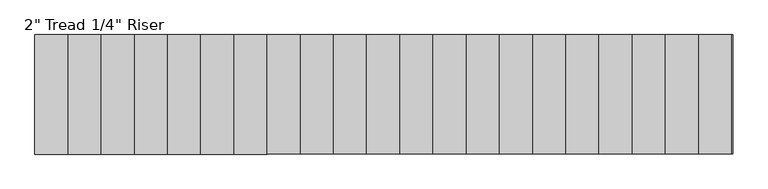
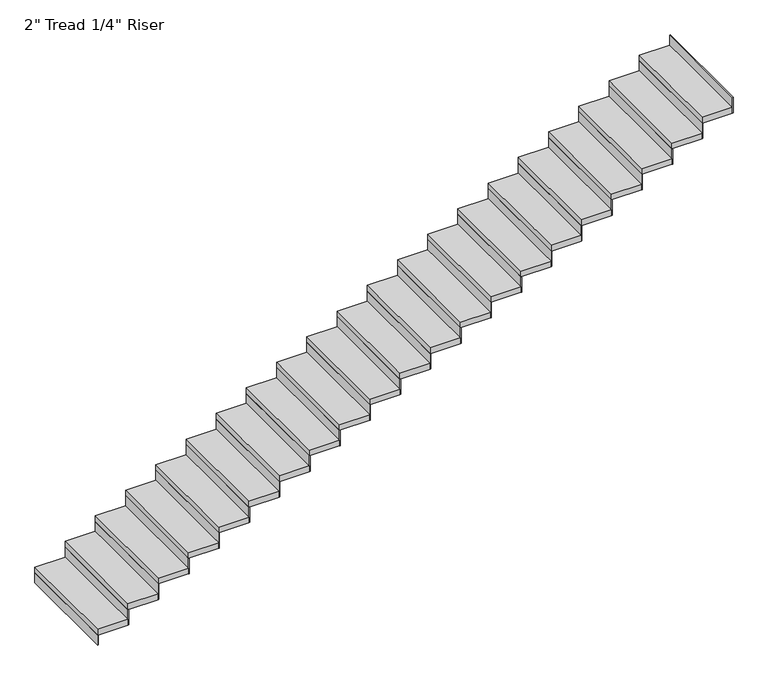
"""IFC4 building model written with IfcOpenShell, lengths in millimetres: stair flight geometry."""

from ifc_helpers import new_model, si_unit, frame, origin, origin_with_axes, place, context, project, spatial, polyline, outline, extrude, source, transform, mapped, element, save


def stair_flight_fd0f363b(model_context):
    return source(origin(), model_context, "Body", "SweptSolid", [
        extrude(outline(polyline([(29973.8286682, 14907.564969), (29967.4786682, 14907.564969), (29967.4786682, 15821.964969), (29973.8286682, 15821.964969), (29973.8286682, 14907.564969)])), origin_with_axes(), (0.0, 0.0, 1.0), 87.7454545),
        extrude(outline(polyline([(30221.4786682, 15821.964969), (30221.4786682, 14907.564969), (29967.4786682, 14907.564969), (29967.4786682, 15821.964969), (30221.4786682, 15821.964969)])), frame((0.0, 0.0, 87.7454545), z_axis=(0.0, 0.0, 1.0), x_axis=(1.0, 0.0, 0.0)), (0.0, 0.0, 1.0), 50.8),
        extrude(outline(polyline([(30227.8286682, 14907.564969), (30221.4786682, 14907.564969), (30221.4786682, 15821.964969), (30227.8286682, 15821.964969), (30227.8286682, 14907.564969)])), frame((0.0, 0.0, 87.7454545), z_axis=(0.0, 0.0, 1.0), x_axis=(1.0, 0.0, 0.0)), (0.0, 0.0, 1.0), 138.5454545),
        extrude(outline(polyline([(30475.4786682, 15821.964969), (30475.4786682, 14907.564969), (30221.4786682, 14907.564969), (30221.4786682, 15821.964969), (30475.4786682, 15821.964969)])), frame((0.0, 0.0, 226.2909091), z_axis=(0.0, 0.0, 1.0), x_axis=(1.0, 0.0, 0.0)), (0.0, 0.0, 1.0), 50.8),
        extrude(outline(polyline([(30481.8286682, 14907.564969), (30475.4786682, 14907.564969), (30475.4786682, 15821.964969), (30481.8286682, 15821.964969), (30481.8286682, 14907.564969)])), frame((0.0, 0.0, 226.2909091), z_axis=(0.0, 0.0, 1.0), x_axis=(1.0, 0.0, 0.0)), (0.0, 0.0, 1.0), 138.5454545),
        extrude(outline(polyline([(30729.4786682, 15821.964969), (30729.4786682, 14907.564969), (30475.4786682, 14907.564969), (30475.4786682, 15821.964969), (30729.4786682, 15821.964969)])), frame((0.0, 0.0, 364.8363636), z_axis=(0.0, 0.0, 1.0), x_axis=(1.0, 0.0, 0.0)), (0.0, 0.0, 1.0), 50.8),
        extrude(outline(polyline([(30735.8286682, 14907.564969), (30729.4786682, 14907.564969), (30729.4786682, 15821.964969), (30735.8286682, 15821.964969), (30735.8286682, 14907.564969)])), frame((0.0, 0.0, 364.8363636), z_axis=(0.0, 0.0, 1.0), x_axis=(1.0, 0.0, 0.0)), (0.0, 0.0, 1.0), 138.5454545),
        extrude(outline(polyline([(30983.4786682, 15821.964969), (30983.4786682, 14907.564969), (30729.4786682, 14907.564969), (30729.4786682, 15821.964969), (30983.4786682, 15821.964969)])), frame((0.0, 0.0, 503.3818182), z_axis=(0.0, 0.0, 1.0), x_axis=(1.0, 0.0, 0.0)), (0.0, 0.0, 1.0), 50.8),
        extrude(outline(polyline([(30989.8286682, 14907.564969), (30983.4786682, 14907.564969), (30983.4786682, 15821.964969), (30989.8286682, 15821.964969), (30989.8286682, 14907.564969)])), frame((0.0, 0.0, 503.3818182), z_axis=(0.0, 0.0, 1.0), x_axis=(1.0, 0.0, 0.0)), (0.0, 0.0, 1.0), 138.5454545),
        extrude(outline(polyline([(31237.4786682, 15821.964969), (31237.4786682, 14907.564969), (30983.4786682, 14907.564969), (30983.4786682, 15821.964969), (31237.4786682, 15821.964969)])), frame((0.0, 0.0, 641.9272727), z_axis=(0.0, 0.0, 1.0), x_axis=(1.0, 0.0, 0.0)), (0.0, 0.0, 1.0), 50.8),
        extrude(outline(polyline([(31243.8286682, 14907.564969), (31237.4786682, 14907.564969), (31237.4786682, 15821.964969), (31243.8286682, 15821.964969), (31243.8286682, 14907.564969)])), frame((0.0, 0.0, 641.9272727), z_axis=(0.0, 0.0, 1.0), x_axis=(1.0, 0.0, 0.0)), (0.0, 0.0, 1.0), 138.5454545),
        extrude(outline(polyline([(31491.4786682, 15821.964969), (31491.4786682, 14907.564969), (31237.4786682, 14907.564969), (31237.4786682, 15821.964969), (31491.4786682, 15821.964969)])), frame((0.0, 0.0, 780.4727273), z_axis=(0.0, 0.0, 1.0), x_axis=(1.0, 0.0, 0.0)), (0.0, 0.0, 1.0), 50.8),
        extrude(outline(polyline([(31497.8286682, 14907.564969), (31491.4786682, 14907.564969), (31491.4786682, 15821.964969), (31497.8286682, 15821.964969), (31497.8286682, 14907.564969)])), frame((0.0, 0.0, 780.4727273), z_axis=(0.0, 0.0, 1.0), x_axis=(1.0, 0.0, 0.0)), (0.0, 0.0, 1.0), 138.5454545),
        extrude(outline(polyline([(31745.4786682, 15821.964969), (31745.4786682, 14907.564969), (31491.4786682, 14907.564969), (31491.4786682, 15821.964969), (31745.4786682, 15821.964969)])), frame((0.0, 0.0, 919.0181818), z_axis=(0.0, 0.0, 1.0), x_axis=(1.0, 0.0, 0.0)), (0.0, 0.0, 1.0), 50.8),
        extrude(outline(polyline([(31751.8286682, 14907.564969), (31745.4786682, 14907.564969), (31745.4786682, 15821.964969), (31751.8286682, 15821.964969), (31751.8286682, 14907.564969)])), frame((0.0, 0.0, 919.0181818), z_axis=(0.0, 0.0, 1.0), x_axis=(1.0, 0.0, 0.0)), (0.0, 0.0, 1.0), 138.5454545),
        extrude(outline(polyline([(31999.4786682, 15821.964969), (31999.4786682, 14907.564969), (31745.4786682, 14907.564969), (31745.4786682, 15821.964969), (31999.4786682, 15821.964969)])), frame((0.0, 0.0, 1057.5636364), z_axis=(0.0, 0.0, 1.0), x_axis=(1.0, 0.0, 0.0)), (0.0, 0.0, 1.0), 50.8),
        extrude(outline(polyline([(32005.8286682, 14907.564969), (31999.4786682, 14907.564969), (31999.4786682, 15821.964969), (32005.8286682, 15821.964969), (32005.8286682, 14907.564969)])), frame((0.0, 0.0, 1057.5636364), z_axis=(0.0, 0.0, 1.0), x_axis=(1.0, 0.0, 0.0)), (0.0, 0.0, 1.0), 138.5454545),
        extrude(outline(polyline([(32253.4786682, 15821.964969), (32253.4786682, 14907.564969), (31999.4786682, 14907.564969), (31999.4786682, 15821.964969), (32253.4786682, 15821.964969)])), frame((0.0, 0.0, 1196.1090909), z_axis=(0.0, 0.0, 1.0), x_axis=(1.0, 0.0, 0.0)), (0.0, 0.0, 1.0), 50.8),
        extrude(outline(polyline([(32259.8286682, 14907.564969), (32253.4786682, 14907.564969), (32253.4786682, 15821.964969), (32259.8286682, 15821.964969), (32259.8286682, 14907.564969)])), frame((0.0, 0.0, 1196.1090909), z_axis=(0.0, 0.0, 1.0), x_axis=(1.0, 0.0, 0.0)), (0.0, 0.0, 1.0), 138.5454545),
        extrude(outline(polyline([(32507.4786682, 15821.964969), (32507.4786682, 14907.564969), (32253.4786682, 14907.564969), (32253.4786682, 15821.964969), (32507.4786682, 15821.964969)])), frame((0.0, 0.0, 1334.6545455), z_axis=(0.0, 0.0, 1.0), x_axis=(1.0, 0.0, 0.0)), (0.0, 0.0, 1.0), 50.8),
        extrude(outline(polyline([(32513.8286682, 14907.564969), (32507.4786682, 14907.564969), (32507.4786682, 15821.964969), (32513.8286682, 15821.964969), (32513.8286682, 14907.564969)])), frame((0.0, 0.0, 1334.6545455), z_axis=(0.0, 0.0, 1.0), x_axis=(1.0, 0.0, 0.0)), (0.0, 0.0, 1.0), 138.5454545),
        extrude(outline(polyline([(32761.4786682, 15821.964969), (32761.4786682, 14907.564969), (32507.4786682, 14907.564969), (32507.4786682, 15821.964969), (32761.4786682, 15821.964969)])), frame((0.0, 0.0, 1473.2), z_axis=(0.0, 0.0, 1.0), x_axis=(1.0, 0.0, 0.0)), (0.0, 0.0, 1.0), 50.8),
        extrude(outline(polyline([(32767.8286682, 14907.564969), (32761.4786682, 14907.564969), (32761.4786682, 15821.964969), (32767.8286682, 15821.964969), (32767.8286682, 14907.564969)])), frame((0.0, 0.0, 1473.2), z_axis=(0.0, 0.0, 1.0), x_axis=(1.0, 0.0, 0.0)), (0.0, 0.0, 1.0), 138.5454545),
        extrude(outline(polyline([(33015.4786682, 15821.964969), (33015.4786682, 14907.564969), (32761.4786682, 14907.564969), (32761.4786682, 15821.964969), (33015.4786682, 15821.964969)])), frame((0.0, 0.0, 1611.7454545), z_axis=(0.0, 0.0, 1.0), x_axis=(1.0, 0.0, 0.0)), (0.0, 0.0, 1.0), 50.8),
        extrude(outline(polyline([(33021.8286682, 14907.564969), (33015.4786682, 14907.564969), (33015.4786682, 15821.964969), (33021.8286682, 15821.964969), (33021.8286682, 14907.564969)])), frame((0.0, 0.0, 1611.7454545), z_axis=(0.0, 0.0, 1.0), x_axis=(1.0, 0.0, 0.0)), (0.0, 0.0, 1.0), 138.5454545),
        extrude(outline(polyline([(33269.4786682, 15821.964969), (33269.4786682, 14907.564969), (33015.4786682, 14907.564969), (33015.4786682, 15821.964969), (33269.4786682, 15821.964969)])), frame((0.0, 0.0, 1750.2909091), z_axis=(0.0, 0.0, 1.0), x_axis=(1.0, 0.0, 0.0)), (0.0, 0.0, 1.0), 50.8),
        extrude(outline(polyline([(33275.8286682, 14907.564969), (33269.4786682, 14907.564969), (33269.4786682, 15821.964969), (33275.8286682, 15821.964969), (33275.8286682, 14907.564969)])), frame((0.0, 0.0, 1750.2909091), z_axis=(0.0, 0.0, 1.0), x_axis=(1.0, 0.0, 0.0)), (0.0, 0.0, 1.0), 138.5454545),
        extrude(outline(polyline([(33523.4786682, 15821.964969), (33523.4786682, 14907.564969), (33269.4786682, 14907.564969), (33269.4786682, 15821.964969), (33523.4786682, 15821.964969)])), frame((0.0, 0.0, 1888.8363636), z_axis=(0.0, 0.0, 1.0), x_axis=(1.0, 0.0, 0.0)), (0.0, 0.0, 1.0), 50.8),
        extrude(outline(polyline([(33529.8286682, 14907.564969), (33523.4786682, 14907.564969), (33523.4786682, 15821.964969), (33529.8286682, 15821.964969), (33529.8286682, 14907.564969)])), frame((0.0, 0.0, 1888.8363636), z_axis=(0.0, 0.0, 1.0), x_axis=(1.0, 0.0, 0.0)), (0.0, 0.0, 1.0), 138.5454545),
        extrude(outline(polyline([(33777.4786682, 15821.964969), (33777.4786682, 14907.564969), (33523.4786682, 14907.564969), (33523.4786682, 15821.964969), (33777.4786682, 15821.964969)])), frame((0.0, 0.0, 2027.3818182), z_axis=(0.0, 0.0, 1.0), x_axis=(1.0, 0.0, 0.0)), (0.0, 0.0, 1.0), 50.8),
        extrude(outline(polyline([(33783.8286682, 14907.564969), (33777.4786682, 14907.564969), (33777.4786682, 15821.964969), (33783.8286682, 15821.964969), (33783.8286682, 14907.564969)])), frame((0.0, 0.0, 2027.3818182), z_axis=(0.0, 0.0, 1.0), x_axis=(1.0, 0.0, 0.0)), (0.0, 0.0, 1.0), 138.5454545),
        extrude(outline(polyline([(34031.4786682, 15821.964969), (34031.4786682, 14907.564969), (33777.4786682, 14907.564969), (33777.4786682, 15821.964969), (34031.4786682, 15821.964969)])), frame((0.0, 0.0, 2165.9272727), z_axis=(0.0, 0.0, 1.0), x_axis=(1.0, 0.0, 0.0)), (0.0, 0.0, 1.0), 50.8),
        extrude(outline(polyline([(34037.8286682, 14907.564969), (34031.4786682, 14907.564969), (34031.4786682, 15821.964969), (34037.8286682, 15821.964969), (34037.8286682, 14907.564969)])), frame((0.0, 0.0, 2165.9272727), z_axis=(0.0, 0.0, 1.0), x_axis=(1.0, 0.0, 0.0)), (0.0, 0.0, 1.0), 138.5454545),
        extrude(outline(polyline([(34285.4786682, 15821.964969), (34285.4786682, 14907.564969), (34031.4786682, 14907.564969), (34031.4786682, 15821.964969), (34285.4786682, 15821.964969)])), frame((0.0, 0.0, 2304.4727273), z_axis=(0.0, 0.0, 1.0), x_axis=(1.0, 0.0, 0.0)), (0.0, 0.0, 1.0), 50.8),
        extrude(outline(polyline([(34291.8286682, 14907.564969), (34285.4786682, 14907.564969), (34285.4786682, 15821.964969), (34291.8286682, 15821.964969), (34291.8286682, 14907.564969)])), frame((0.0, 0.0, 2304.4727273), z_axis=(0.0, 0.0, 1.0), x_axis=(1.0, 0.0, 0.0)), (0.0, 0.0, 1.0), 138.5454545),
        extrude(outline(polyline([(34539.4786682, 15821.964969), (34539.4786682, 14907.564969), (34285.4786682, 14907.564969), (34285.4786682, 15821.964969), (34539.4786682, 15821.964969)])), frame((0.0, 0.0, 2443.0181818), z_axis=(0.0, 0.0, 1.0), x_axis=(1.0, 0.0, 0.0)), (0.0, 0.0, 1.0), 50.8),
        extrude(outline(polyline([(34545.8286682, 14907.564969), (34539.4786682, 14907.564969), (34539.4786682, 15821.964969), (34545.8286682, 15821.964969), (34545.8286682, 14907.564969)])), frame((0.0, 0.0, 2443.0181818), z_axis=(0.0, 0.0, 1.0), x_axis=(1.0, 0.0, 0.0)), (0.0, 0.0, 1.0), 138.5454545),
        extrude(outline(polyline([(34793.4786682, 15821.964969), (34793.4786682, 14907.564969), (34539.4786682, 14907.564969), (34539.4786682, 15821.964969), (34793.4786682, 15821.964969)])), frame((0.0, 0.0, 2581.5636364), z_axis=(0.0, 0.0, 1.0), x_axis=(1.0, 0.0, 0.0)), (0.0, 0.0, 1.0), 50.8),
        extrude(outline(polyline([(34799.8286682, 14907.564969), (34793.4786682, 14907.564969), (34793.4786682, 15821.964969), (34799.8286682, 15821.964969), (34799.8286682, 14907.564969)])), frame((0.0, 0.0, 2581.5636364), z_axis=(0.0, 0.0, 1.0), x_axis=(1.0, 0.0, 0.0)), (0.0, 0.0, 1.0), 138.5454545),
        extrude(outline(polyline([(35047.4786682, 15821.964969), (35047.4786682, 14907.564969), (34793.4786682, 14907.564969), (34793.4786682, 15821.964969), (35047.4786682, 15821.964969)])), frame((0.0, 0.0, 2720.1090909), z_axis=(0.0, 0.0, 1.0), x_axis=(1.0, 0.0, 0.0)), (0.0, 0.0, 1.0), 50.8),
        extrude(outline(polyline([(35053.8286682, 14907.564969), (35047.4786682, 14907.564969), (35047.4786682, 15821.964969), (35053.8286682, 15821.964969), (35053.8286682, 14907.564969)])), frame((0.0, 0.0, 2720.1090909), z_axis=(0.0, 0.0, 1.0), x_axis=(1.0, 0.0, 0.0)), (0.0, 0.0, 1.0), 138.5454545),
        extrude(outline(polyline([(35307.8286682, 14907.564969), (35301.4786682, 14907.564969), (35301.4786682, 15821.964969), (35307.8286682, 15821.964969), (35307.8286682, 14907.564969)])), frame((0.0, 0.0, 2858.6545455), z_axis=(0.0, 0.0, 1.0), x_axis=(1.0, 0.0, 0.0)), (0.0, 0.0, 1.0), 138.5454545),
        extrude(outline(polyline([(35301.4786682, 15821.964969), (35301.4786682, 14907.564969), (35047.4786682, 14907.564969), (35047.4786682, 15821.964969), (35301.4786682, 15821.964969)])), frame((0.0, 0.0, 2858.6545455), z_axis=(0.0, 0.0, 1.0), x_axis=(1.0, 0.0, 0.0)), (0.0, 0.0, 1.0), 50.8),
    ])


if __name__ == "__main__":
    model = new_model("IFC4")
    model_context = context("Model", 3, world=origin())
    ifc_project = project(units=[si_unit("LENGTHUNIT", "METRE", prefix="MILLI")], contexts=[model_context])
    site = spatial("IfcSite", under=ifc_project)
    building = spatial("IfcBuilding", under=site)
    placement = place(None, origin())
    stair_flight_shape = stair_flight_fd0f363b(model_context)
    element("IfcStairFlight", 1, ObjectType="2\" Tread 1/4\" Riser", at=placement, inside=building, context=model_context, shape_type="MappedRepresentation", body=[
        mapped(stair_flight_shape, transform((0.0, 0.0, 0.0), x_axis=(1.0, 0.0, 0.0), y_axis=(0.0, 1.0, 0.0), z_axis=(0.0, 0.0, 1.0))),
    ])
    save(model, "model.ifc")
